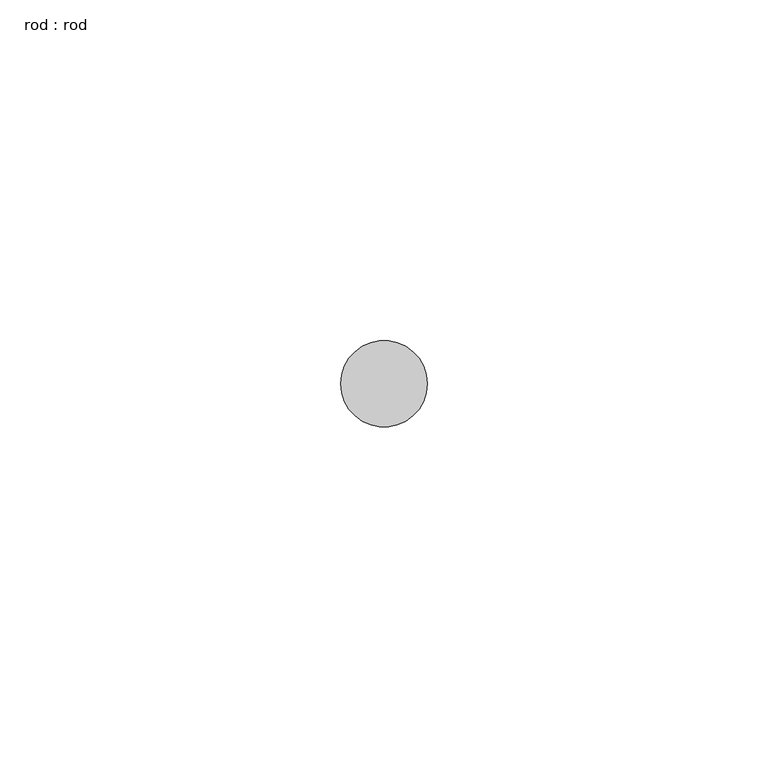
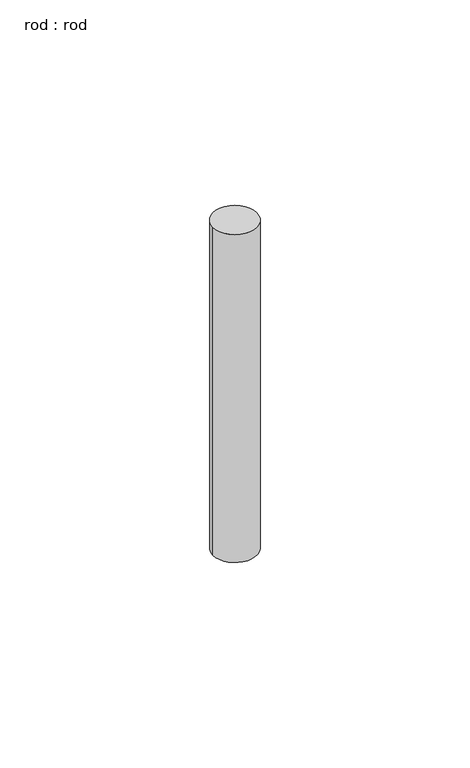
"""IFC4 building model written with IfcOpenShell, lengths in millimetres: unitary equipment geometry, rod : rod."""

from ifc_helpers import new_model, si_unit, point, origin, origin_with_axes, origin_2d, place, context, project, spatial, circle_curve, trimmed, segment, composite_curve, outline, extrude, source, transform, mapped, element, save


def rod_rod_9e80afb6(model_context):
    return source(origin(), model_context, "Body", "SweptSolid", [
        extrude(outline(composite_curve([segment(trimmed(circle_curve(origin_2d(), 6.35), [point((6.35, 0.0))], [point((-6.35, 0.0))], False, "CARTESIAN"), True, "CONTINUOUS"), segment(trimmed(circle_curve(origin_2d(), 6.35), [point((-6.35, 0.0))], [point((6.35, 0.0))], False, "CARTESIAN"), True, "CONTINUOUS")], self_intersect=False)), origin_with_axes(), (0.0, 0.0, 1.0), 100.0),
    ])


if __name__ == "__main__":
    model = new_model("IFC4")
    model_context = context("Model", 3, world=origin())
    ifc_project = project(units=[si_unit("LENGTHUNIT", "METRE", prefix="MILLI")], contexts=[model_context])
    site = spatial("IfcSite", under=ifc_project)
    building = spatial("IfcBuilding", under=site)
    placement = place(None, origin())
    rod_rod_shape = rod_rod_9e80afb6(model_context)
    element("IfcUnitaryEquipment", 1, ObjectType="rod : rod", at=placement, inside=building, context=model_context, shape_type="MappedRepresentation", body=[
        mapped(rod_rod_shape, transform((0.0, 0.0, 0.0), x_axis=(1.0, 0.0, 0.0), y_axis=(0.0, 1.0, 0.0), z_axis=(0.0, 0.0, 1.0))),
    ])
    save(model, "model.ifc")
